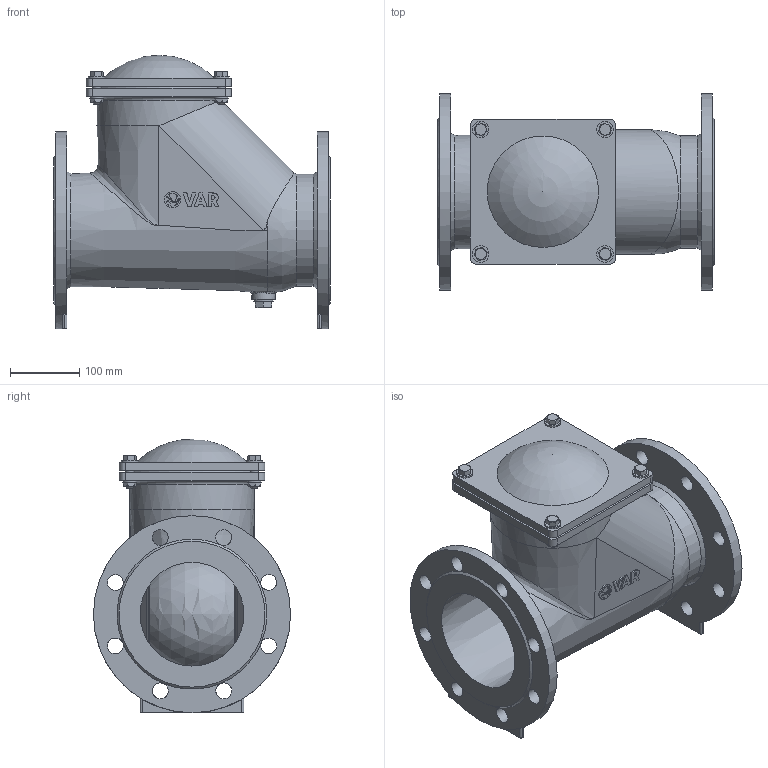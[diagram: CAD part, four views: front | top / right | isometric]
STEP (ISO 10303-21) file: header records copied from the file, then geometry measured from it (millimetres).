
FILE_DESCRIPTION(('STEP AP203'), '1');
FILE_NAME('Øàðîâîé îáðàòíûé êëàïàí VAG KRV', '', ('UNSPECIFIED'), ('UNSPECIFIED'), 'C3D Converter', 'C3D Toolkit', '');
FILE_SCHEMA(('CONFIG_CONTROL_DESIGN'));
Length unit declared in the file: millimetre
Assembly tree (22 placements, depth 2):
  (unnamed)
    (unnamed)
    (unnamed)
    (unnamed)
    (unnamed)
    (unnamed)
    (unnamed)  x4
    (unnamed)  x4
    (unnamed)  x4
    (unnamed)  x4
    (unnamed)
Bounding box: 400 x 285 x 395.5 mm (x, y, z)
Volume: 6605030.5 mm3; surface area: 1127702.4 mm2
Topology: 23 solids, 24 shells, 554 faces, 1460 edges, 971 vertices
Faces by surface type: plane 264, extrusion 140, cylinder 83, cone 39, bspline 11, sphere 9, torus 8
Full cylindrical faces by diameter (mm): 10.106 x4, 10.5 x4, 12 x4, 13 x4, 14 x8, 16 x2, 17 x1, 20 x4, 22.49 x1, 23 x16, 23.683 x1, 24 x4, 28 x1, 34 x1, 150 x1, 162 x1, 168 x2, 285 x2
Entity records: 22551 total; most frequent: CARTESIAN_POINT 9021, ORIENTED_EDGE 2240, DIRECTION 1738, EDGE_CURVE 1120, VERTEX_POINT 772, VECTOR 698, EDGE_LOOP 601, LINE 558
